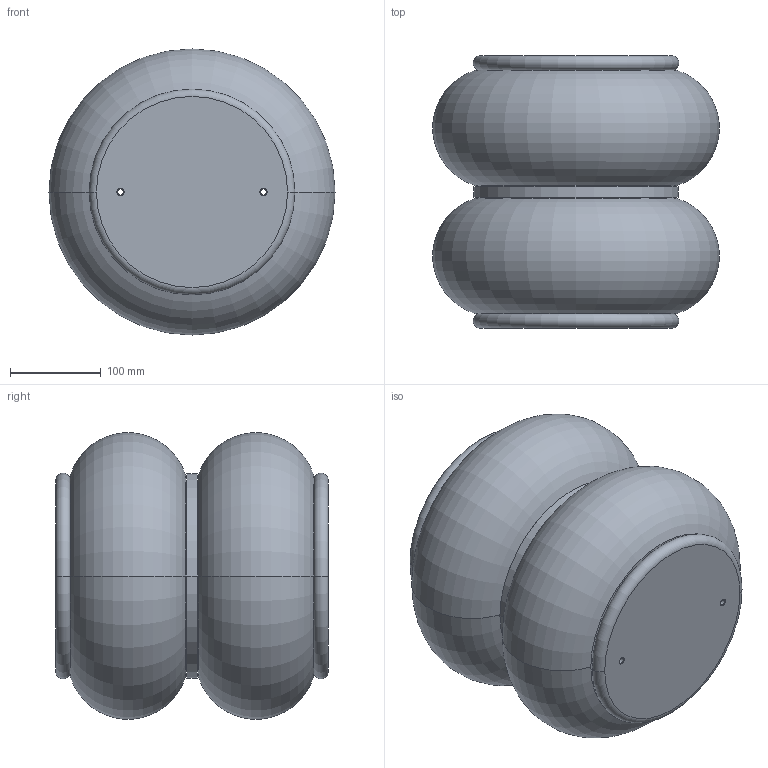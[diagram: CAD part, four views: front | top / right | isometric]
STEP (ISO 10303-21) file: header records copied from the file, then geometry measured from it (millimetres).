
FILE_DESCRIPTION((''),'2;1');
FILE_NAME('2999638300_MAX','2018-05-09T',('tng2hc'),(''),'CREO PARAMETRIC BY PTC INC, 2016260','CREO PARAMETRIC BY PTC INC, 2016260','');
FILE_SCHEMA(('CONFIG_CONTROL_DESIGN'));
Length unit declared in the file: millimetre
Products named in the file (1): 2999638300_MAX
Bounding box: 315.12 x 300 x 315.12 mm (x, y, z)
Volume: 11171285.2 mm3; surface area: 659604.7 mm2
Topology: 1 solids, 1 shells, 46 faces, 98 edges, 62 vertices
Faces by surface type: cylinder 18, plane 10, cone 10, torus 8
Entity records: 1348 total; most frequent: DIRECTION 260, CARTESIAN_POINT 206, ORIENTED_EDGE 196, AXIS2_PLACEMENT_3D 116, EDGE_CURVE 98, CIRCLE 70, VERTEX_POINT 62, EDGE_LOOP 62
